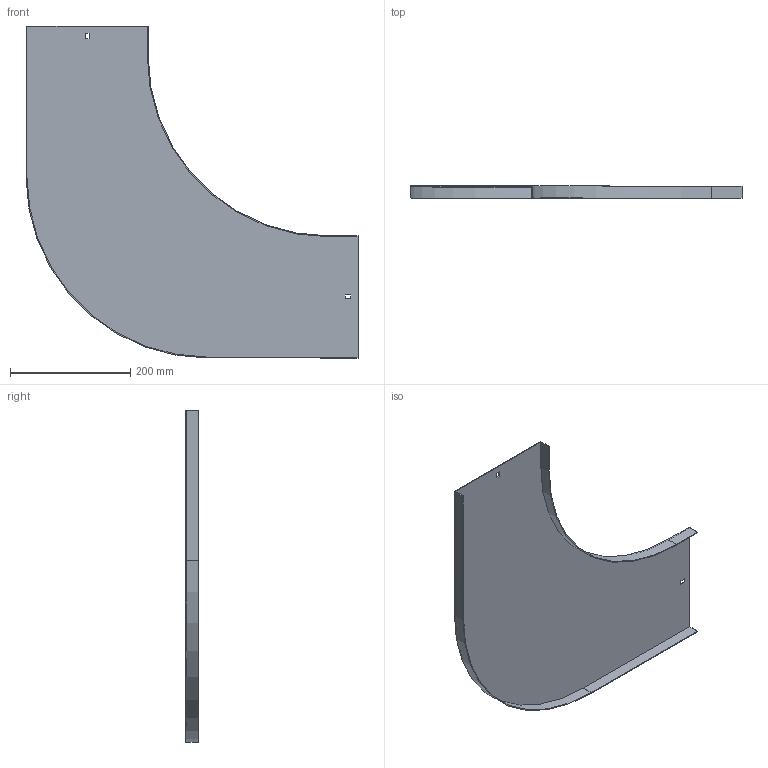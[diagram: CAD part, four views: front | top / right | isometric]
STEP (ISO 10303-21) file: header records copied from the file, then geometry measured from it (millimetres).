
FILE_DESCRIPTION (( 'STEP AP214' ), '1' );
FILE_NAME ('B2_10N3R200.step', '2025-02-21T10:54:17', ( '' ), ( '' ), 'SwSTEP 2.0', 'SolidWorks 2023', '' );
FILE_SCHEMA (( 'AUTOMOTIVE_DESIGN' ));
Length unit declared in the file: millimetre
Products named in the file (1): B2_10N3R200
Bounding box: 551.5 x 20 x 551.5 mm (x, y, z)
Volume: 316098.8 mm3; surface area: 424591.8 mm2
Topology: 1 solids, 1 shells, 26 faces, 72 edges, 48 vertices
Faces by surface type: plane 22, cylinder 4
Entity records: 855 total; most frequent: CARTESIAN_POINT 147, ORIENTED_EDGE 144, DIRECTION 134, EDGE_CURVE 72, LINE 64, VECTOR 64, VERTEX_POINT 48, AXIS2_PLACEMENT_3D 35
